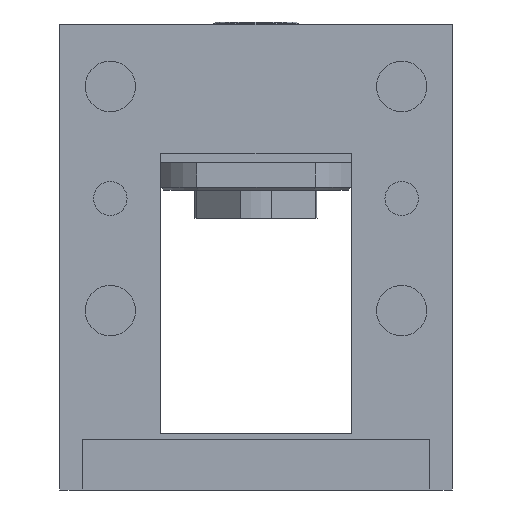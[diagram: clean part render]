
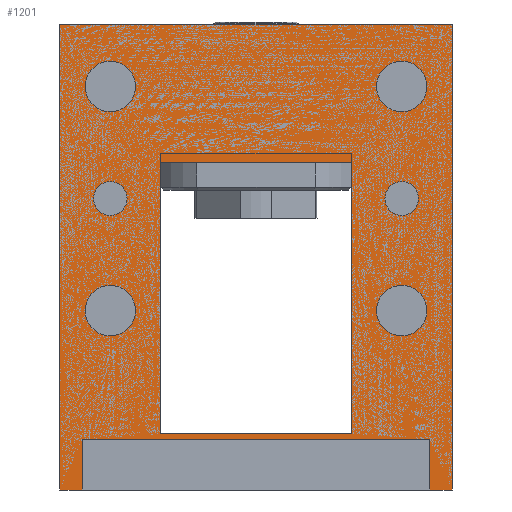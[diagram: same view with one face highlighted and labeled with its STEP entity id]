
A CAD part, front view. The second image highlights one B-rep face of the part: STEP entity #1201.
In plain terms, the highlighted planar face has unit normal (0, -1, 0).
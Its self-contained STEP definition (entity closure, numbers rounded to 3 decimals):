
#787=FACE_BOUND('',#1650,.T.);
#788=FACE_BOUND('',#1651,.T.);
#789=FACE_BOUND('',#1652,.T.);
#790=FACE_BOUND('',#1653,.T.);
#791=FACE_BOUND('',#1654,.T.);
#792=FACE_BOUND('',#1655,.T.);
#793=FACE_BOUND('',#1656,.T.);
#794=FACE_BOUND('',#1657,.T.);
#1037=CIRCLE('',#4010,3.);
#1038=CIRCLE('',#4011,3.);
#1039=CIRCLE('',#4012,4.5);
#1040=CIRCLE('',#4013,4.5);
#1041=CIRCLE('',#4014,4.5);
#1042=CIRCLE('',#4015,4.5);
#1201=ADVANCED_FACE('',(#787,#788,#789,#790,#791,#792,#793,#794),#1416,
 .T.);
#1416=PLANE('',#4016);
#1650=EDGE_LOOP('',(#2087,#2088,#2089,#2090,#2091,#2092,#2093,#2094));
#1651=EDGE_LOOP('',(#2095,#2096,#2097,#2098));
#1652=EDGE_LOOP('',(#2099));
#1653=EDGE_LOOP('',(#2100));
#1654=EDGE_LOOP('',(#2101));
#1655=EDGE_LOOP('',(#2102));
#1656=EDGE_LOOP('',(#2103));
#1657=EDGE_LOOP('',(#2104));
#2087=ORIENTED_EDGE('',*,*,#3205,.F.);
#2088=ORIENTED_EDGE('',*,*,#3206,.T.);
#2089=ORIENTED_EDGE('',*,*,#3170,.T.);
#2090=ORIENTED_EDGE('',*,*,#3207,.F.);
#2091=ORIENTED_EDGE('',*,*,#3208,.T.);
#2092=ORIENTED_EDGE('',*,*,#3209,.F.);
#2093=ORIENTED_EDGE('',*,*,#3204,.F.);
#2094=ORIENTED_EDGE('',*,*,#3210,.F.);
#2095=ORIENTED_EDGE('',*,*,#3175,.T.);
#2096=ORIENTED_EDGE('',*,*,#3146,.T.);
#2097=ORIENTED_EDGE('',*,*,#3211,.T.);
#2098=ORIENTED_EDGE('',*,*,#3142,.F.);
#2099=ORIENTED_EDGE('',*,*,#3212,.F.);
#2100=ORIENTED_EDGE('',*,*,#3213,.F.);
#2101=ORIENTED_EDGE('',*,*,#3214,.F.);
#2102=ORIENTED_EDGE('',*,*,#3215,.F.);
#2103=ORIENTED_EDGE('',*,*,#3216,.F.);
#2104=ORIENTED_EDGE('',*,*,#3217,.F.);
#2822=VERTEX_POINT('',#5444);
#2823=VERTEX_POINT('',#5445);
#2824=VERTEX_POINT('',#5450);
#2825=VERTEX_POINT('',#5452);
#2844=VERTEX_POINT('',#5498);
#2845=VERTEX_POINT('',#5499);
#2870=VERTEX_POINT('',#5565);
#2871=VERTEX_POINT('',#5567);
#2872=VERTEX_POINT('',#5571);
#2873=VERTEX_POINT('',#5572);
#2874=VERTEX_POINT('',#5575);
#2875=VERTEX_POINT('',#5577);
#2876=VERTEX_POINT('',#5582);
#2877=VERTEX_POINT('',#5584);
#2878=VERTEX_POINT('',#5586);
#2879=VERTEX_POINT('',#5588);
#2880=VERTEX_POINT('',#5590);
#2881=VERTEX_POINT('',#5592);
#3142=EDGE_CURVE('',#2822,#2823,#3544,.T.);
#3146=EDGE_CURVE('',#2825,#2824,#3548,.T.);
#3170=EDGE_CURVE('',#2844,#2845,#3566,.T.);
#3175=EDGE_CURVE('',#2822,#2825,#3570,.T.);
#3204=EDGE_CURVE('',#2871,#2870,#3591,.T.);
#3205=EDGE_CURVE('',#2872,#2873,#3592,.T.);
#3206=EDGE_CURVE('',#2872,#2844,#3593,.T.);
#3207=EDGE_CURVE('',#2874,#2845,#3594,.T.);
#3208=EDGE_CURVE('',#2874,#2875,#3595,.T.);
#3209=EDGE_CURVE('',#2870,#2875,#3596,.T.);
#3210=EDGE_CURVE('',#2873,#2871,#3597,.T.);
#3211=EDGE_CURVE('',#2824,#2823,#3598,.T.);
#3212=EDGE_CURVE('',#2876,#2876,#1037,.T.);
#3213=EDGE_CURVE('',#2877,#2877,#1038,.T.);
#3214=EDGE_CURVE('',#2878,#2878,#1039,.T.);
#3215=EDGE_CURVE('',#2879,#2879,#1040,.T.);
#3216=EDGE_CURVE('',#2880,#2880,#1041,.T.);
#3217=EDGE_CURVE('',#2881,#2881,#1042,.T.);
#3544=LINE('',#5443,#3768);
#3548=LINE('',#5451,#3772);
#3566=LINE('',#5497,#3790);
#3570=LINE('',#5508,#3794);
#3591=LINE('',#5568,#3815);
#3592=LINE('',#5570,#3816);
#3593=LINE('',#5573,#3817);
#3594=LINE('',#5574,#3818);
#3595=LINE('',#5576,#3819);
#3596=LINE('',#5578,#3820);
#3597=LINE('',#5579,#3821);
#3598=LINE('',#5580,#3822);
#3768=VECTOR('',#4414,1.);
#3772=VECTOR('',#4420,1.);
#3790=VECTOR('',#4456,1.);
#3794=VECTOR('',#4464,1.);
#3815=VECTOR('',#4517,1.);
#3816=VECTOR('',#4520,1.);
#3817=VECTOR('',#4521,1.);
#3818=VECTOR('',#4522,1.);
#3819=VECTOR('',#4523,1.);
#3820=VECTOR('',#4524,1.);
#3821=VECTOR('',#4525,1.);
#3822=VECTOR('',#4526,1.);
#4010=AXIS2_PLACEMENT_3D('',#5581,#4527,#4528);
#4011=AXIS2_PLACEMENT_3D('',#5583,#4529,#4530);
#4012=AXIS2_PLACEMENT_3D('',#5585,#4531,#4532);
#4013=AXIS2_PLACEMENT_3D('',#5587,#4533,#4534);
#4014=AXIS2_PLACEMENT_3D('',#5589,#4535,#4536);
#4015=AXIS2_PLACEMENT_3D('',#5591,#4537,#4538);
#4016=AXIS2_PLACEMENT_3D('',#5593,#4539,#4540);
#4414=DIRECTION('',(0.,0.,1.));
#4420=DIRECTION('',(0.,0.,1.));
#4456=DIRECTION('',(0.,0.,-1.));
#4464=DIRECTION('',(-1.,0.,0.));
#4517=DIRECTION('',(0.,0.,1.));
#4520=DIRECTION('',(0.,0.,-1.));
#4521=DIRECTION('',(1.,0.,0.));
#4522=DIRECTION('',(-1.,0.,0.));
#4523=DIRECTION('',(0.,0.,1.));
#4524=DIRECTION('',(1.,0.,0.));
#4525=DIRECTION('',(-1.,0.,0.));
#4526=DIRECTION('',(1.,0.,0.));
#4527=DIRECTION('',(0.,-1.,0.));
#4528=DIRECTION('',(0.,0.,-1.));
#4529=DIRECTION('',(0.,-1.,0.));
#4530=DIRECTION('',(0.,0.,-1.));
#4531=DIRECTION('',(0.,-1.,0.));
#4532=DIRECTION('',(0.,0.,-1.));
#4533=DIRECTION('',(0.,-1.,0.));
#4534=DIRECTION('',(0.,0.,-1.));
#4535=DIRECTION('',(0.,-1.,0.));
#4536=DIRECTION('',(0.,0.,-1.));
#4537=DIRECTION('',(0.,-1.,0.));
#4538=DIRECTION('',(0.,0.,-1.));
#4539=DIRECTION('',(0.,-1.,0.));
#4540=DIRECTION('',(0.,0.,-1.));
#5443=CARTESIAN_POINT('',(17.,-25.,105.));
#5444=CARTESIAN_POINT('',(17.,-25.,105.));
#5445=CARTESIAN_POINT('',(17.,-25.,153.5));
#5450=CARTESIAN_POINT('',(-17.,-25.,153.5));
#5451=CARTESIAN_POINT('',(-17.,-25.,105.));
#5452=CARTESIAN_POINT('',(-17.,-25.,105.));
#5497=CARTESIAN_POINT('',(31.,-25.,105.));
#5498=CARTESIAN_POINT('',(31.,-25.,104.));
#5499=CARTESIAN_POINT('',(31.,-25.,95.));
#5508=CARTESIAN_POINT('',(-31.,-25.,105.));
#5565=CARTESIAN_POINT('',(-35.,-25.,178.));
#5567=CARTESIAN_POINT('',(-35.,-25.,95.));
#5568=CARTESIAN_POINT('',(-35.,-25.,155.));
#5570=CARTESIAN_POINT('',(-31.,-25.,105.));
#5571=CARTESIAN_POINT('',(-31.,-25.,104.));
#5572=CARTESIAN_POINT('',(-31.,-25.,95.));
#5573=CARTESIAN_POINT('',(0.,-25.,104.));
#5574=CARTESIAN_POINT('',(35.,-25.,95.));
#5575=CARTESIAN_POINT('',(35.,-25.,95.));
#5576=CARTESIAN_POINT('',(35.,-25.,155.));
#5577=CARTESIAN_POINT('',(35.,-25.,178.));
#5578=CARTESIAN_POINT('',(-35.,-25.,178.));
#5579=CARTESIAN_POINT('',(-35.,-25.,95.));
#5580=CARTESIAN_POINT('',(-17.,-25.,153.5));
#5581=CARTESIAN_POINT('',(26.,-25.,147.));
#5582=CARTESIAN_POINT('',(26.,-25.,144.));
#5583=CARTESIAN_POINT('',(-26.,-25.,147.));
#5584=CARTESIAN_POINT('',(-26.,-25.,144.));
#5585=CARTESIAN_POINT('',(26.,-25.,127.));
#5586=CARTESIAN_POINT('',(26.,-25.,122.5));
#5587=CARTESIAN_POINT('',(-26.,-25.,127.));
#5588=CARTESIAN_POINT('',(-26.,-25.,122.5));
#5589=CARTESIAN_POINT('',(26.,-25.,167.));
#5590=CARTESIAN_POINT('',(26.,-25.,162.5));
#5591=CARTESIAN_POINT('',(-26.,-25.,167.));
#5592=CARTESIAN_POINT('',(-26.,-25.,162.5));
#5593=CARTESIAN_POINT('',(-35.,-25.,155.));
